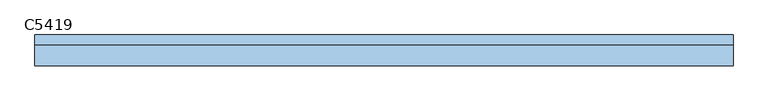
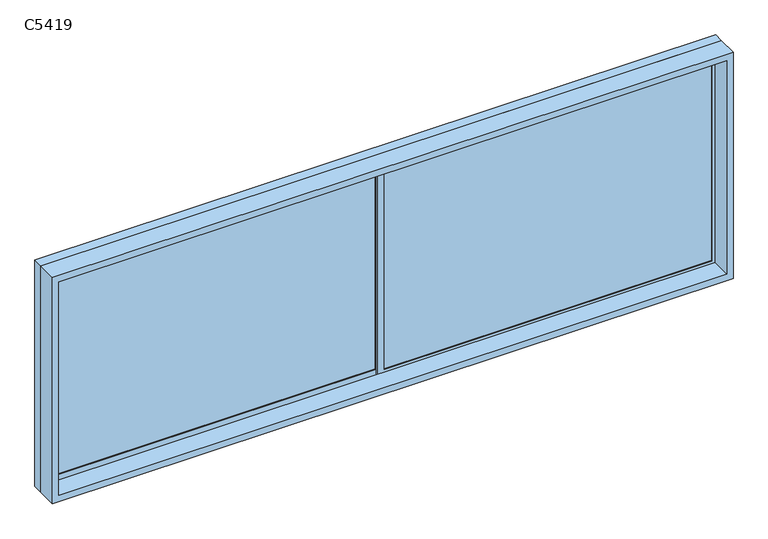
"""IFC4 building model written with IfcOpenShell, lengths in millimetres: window geometry, 推拉窗6 : C5419."""

from ifc_helpers import new_model, si_unit, frame, origin, place, context, project, spatial, polyline, outline, extrude, source, transform, mapped, element, save


def c5419_955795ff(model_context):
    return source(origin(), model_context, "Body", "SweptSolid", [
        extrude(outline(polyline([(-2615.475, 23.1265625), (-15.475, 23.1265625), (-15.475, 13.1265625), (-2615.475, 13.1265625), (-2615.475, 23.1265625)])), frame((0.0, 0.0, 675.0), z_axis=(0.0, 0.0, 1.0), x_axis=(1.0, 0.0, 0.0)), (0.0, 0.0, 1.0), 1750.0),
        extrude(outline(polyline([(34.525, -6.8734375), (2634.525, -6.8734375), (2634.525, -16.8734375), (34.525, -16.8734375), (34.525, -6.8734375)])), frame((0.0, 0.0, 675.0), z_axis=(0.0, 0.0, 1.0), x_axis=(1.0, 0.0, 0.0)), (0.0, 0.0, 1.0), 1750.0),
        extrude(outline(polyline([(2500.0, -2690.475), (600.0, -2690.475), (600.0, 2709.525), (2500.0, 2709.525), (2500.0, -2690.475)]), holes=[polyline([(2445.0, 2659.525), (655.0, 2659.525), (655.0, -2640.475), (2445.0, -2640.475), (2445.0, 2659.525)])]), frame((0.0, -186.8734375, 0.0), z_axis=(0.0, 1.0, 0.0), x_axis=(0.0, 0.0, 1.0)), (0.0, 0.0, 1.0), 160.0),
        extrude(outline(polyline([(625.0, 34.525), (2475.0, 34.525), (2475.0, -2665.475), (625.0, -2665.475), (625.0, 34.525)]), holes=[polyline([(675.0, -15.475), (675.0, -2615.475), (2425.0, -2615.475), (2425.0, -15.475), (675.0, -15.475)])]), frame((0.0, 3.1265625, 0.0), z_axis=(0.0, 1.0, 0.0), x_axis=(0.0, 0.0, 1.0)), (0.0, 0.0, 1.0), 30.0),
        extrude(outline(polyline([(2475.0, -15.475), (625.0, -15.475), (625.0, 2684.525), (2475.0, 2684.525), (2475.0, -15.475)]), holes=[polyline([(2425.0, 34.525), (2425.0, 2634.525), (675.0, 2634.525), (675.0, 34.525), (2425.0, 34.525)])]), frame((0.0, -26.8734375, 0.0), z_axis=(0.0, 1.0, 0.0), x_axis=(0.0, 0.0, 1.0)), (0.0, 0.0, 1.0), 30.0),
        extrude(outline(polyline([(2500.0, -2690.475), (600.0, -2690.475), (600.0, 2709.525), (2500.0, 2709.525), (2500.0, -2690.475)]), holes=[polyline([(625.0, -2665.475), (2475.0, -2665.475), (2475.0, 2684.525), (625.0, 2684.525), (625.0, -2665.475)])]), frame((0.0, -26.8734375, 0.0), z_axis=(0.0, 1.0, 0.0), x_axis=(0.0, 0.0, 1.0)), (0.0, 0.0, 1.0), 80.0),
    ])


if __name__ == "__main__":
    model = new_model("IFC4")
    model_context = context("Model", 3, world=origin())
    ifc_project = project(units=[si_unit("LENGTHUNIT", "METRE", prefix="MILLI")], contexts=[model_context])
    site = spatial("IfcSite", under=ifc_project)
    building = spatial("IfcBuilding", under=site)
    placement = place(None, origin())
    c5419_shape = c5419_955795ff(model_context)
    element("IfcWindow", 1, ObjectType="推拉窗6 : C5419", at=placement, inside=building, context=model_context, shape_type="MappedRepresentation", body=[
        mapped(c5419_shape, transform((0.0, 0.0, 0.0), x_axis=(1.0, 0.0, 0.0), y_axis=(0.0, 1.0, 0.0), z_axis=(0.0, 0.0, 1.0))),
    ])
    save(model, "model.ifc")
